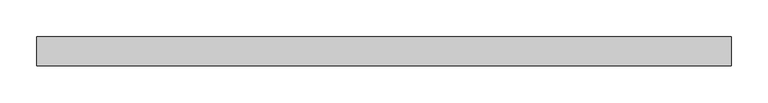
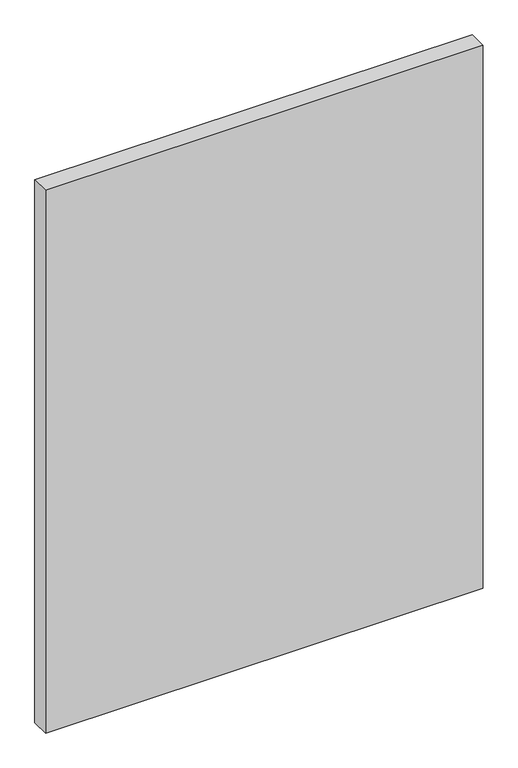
"""IFC4 building model written with IfcOpenShell, lengths in millimetres: plate geometry, Vitré."""

from ifc_helpers import new_model, si_unit, origin, origin_with_axes, place, context, project, spatial, polyline, outline, extrude, source, transform, mapped, element, save


def plate_aa2d6b85(model_context):
    return source(origin(), model_context, "Body", "SweptSolid", [
        extrude(outline(polyline([(-475.0, -20.0), (-475.0, 20.0), (475.0, 20.0), (475.0, -20.0), (-475.0, -20.0)])), origin_with_axes(), (0.0, 0.0, 1.0), 1244.9697414),
    ])


if __name__ == "__main__":
    model = new_model("IFC4")
    model_context = context("Model", 3, world=origin())
    ifc_project = project(units=[si_unit("LENGTHUNIT", "METRE", prefix="MILLI")], contexts=[model_context])
    site = spatial("IfcSite", under=ifc_project)
    building = spatial("IfcBuilding", under=site)
    placement = place(None, origin())
    plate_shape = plate_aa2d6b85(model_context)
    element("IfcPlate", 1, ObjectType="Vitré", at=placement, inside=building, context=model_context, shape_type="MappedRepresentation", body=[
        mapped(plate_shape, transform((0.0, 0.0, 0.0), x_axis=(1.0, 0.0, 0.0), y_axis=(0.0, 1.0, 0.0), z_axis=(0.0, 0.0, 1.0))),
    ])
    save(model, "model.ifc")
